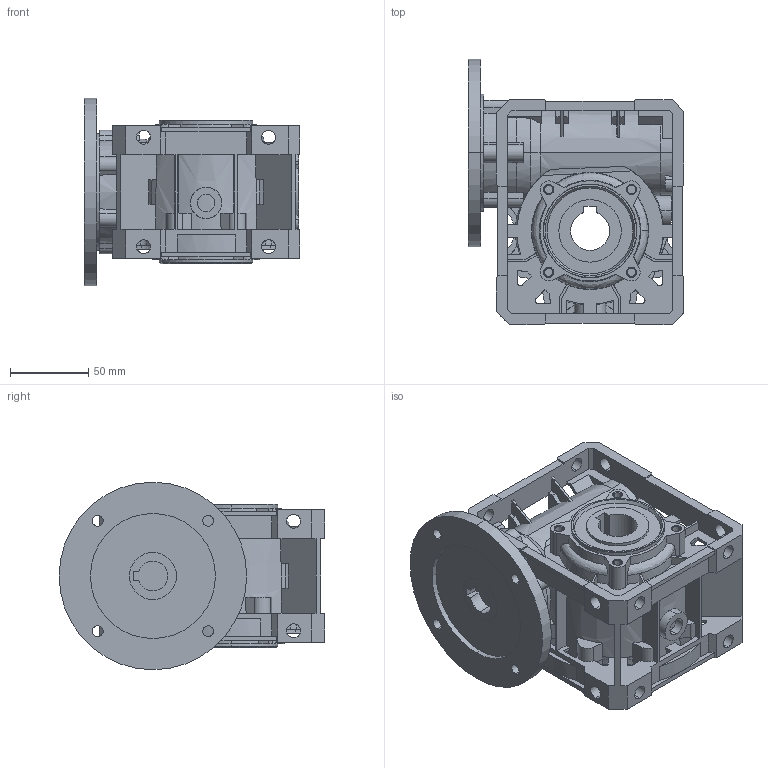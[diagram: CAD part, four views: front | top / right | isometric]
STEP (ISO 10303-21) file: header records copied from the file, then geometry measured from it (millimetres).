
FILE_DESCRIPTION (( 'STEP AP214' ), '1' );
FILE_NAME ('MU 50 NO PAM80B14 NO 0 D25 STANDARD 0 0.step', '2019-01-28T09:22:07', ( '' ), ( '' ), 'SwSTEP 2.0', 'SolidWorks 2015', '' );
FILE_SCHEMA (( 'AUTOMOTIVE_DESIGN' ));
Length unit declared in the file: millimetre
Products named in the file (7): MU 50 NO PAM80B14 NO 0 D25 STANDARD 0 0; BODY U-MU 50 - 20139860; INPUT SHAFT MU 50_F.19; FAM MU 50_D.120; OUTPUT SHAFT U-MU_U-MU 50 D.25; FLANGE FP U-MU 50 - 20099994; PAM MU 50_PAM 80 B14
Assembly tree (6 placements, depth 3):
  MU 50 NO PAM80B14 NO 0 D25 STANDARD 0 0
    BODY U-MU 50 - 20139860
    FLANGE FP U-MU 50 - 20099994
    OUTPUT SHAFT U-MU_U-MU 50 D.25
    PAM MU 50_PAM 80 B14
      FAM MU 50_D.120
      INPUT SHAFT MU 50_F.19
Bounding box: 138 x 170 x 120 mm (x, y, z)
Volume: 1014394.6 mm3; surface area: 220144 mm2
Topology: 13 solids, 16 shells, 1051 faces, 2978 edges, 1952 vertices
Faces by surface type: plane 553, cylinder 300, cone 180, bspline 18
Entity records: 40108 total; most frequent: CARTESIAN_POINT 12194, ORIENTED_EDGE 5956, DIRECTION 5501, EDGE_CURVE 2978, VERTEX_POINT 1952, AXIS2_PLACEMENT_3D 1922, LINE 1657, VECTOR 1657
